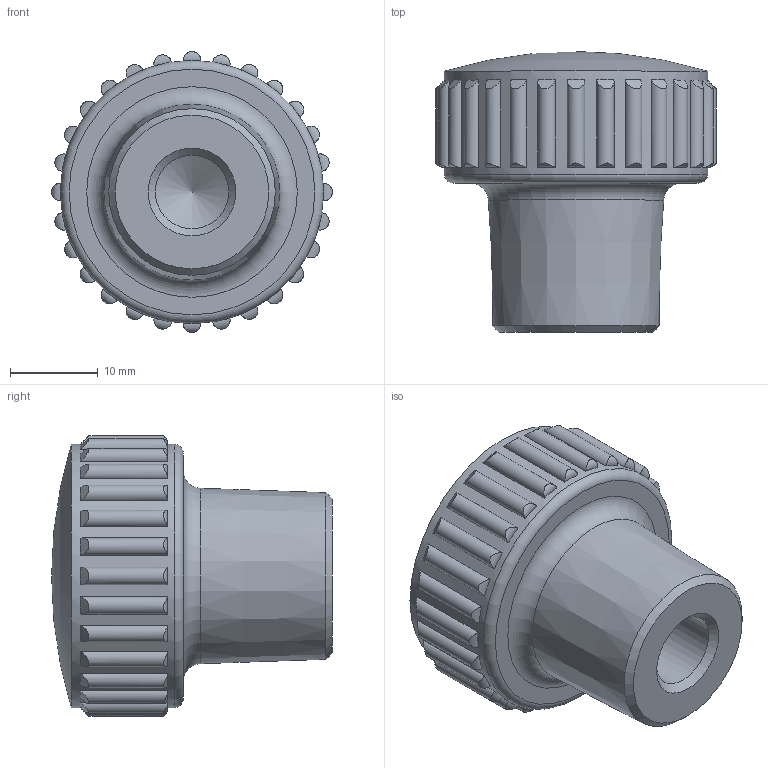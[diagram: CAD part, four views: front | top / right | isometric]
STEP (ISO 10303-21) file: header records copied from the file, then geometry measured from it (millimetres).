
FILE_DESCRIPTION( ( 'STEP AP203' ), '1' );
FILE_NAME( 'C:/Temp/Ganter_Step_05_03_2020/data/2_2/gn_530_1/Knurled nut GN 530.1-32-M10-WS.stp', '2020-03-05T12:34:24', ( 'License CC BY-ND 4.0' ), ( 'CADENAS' ), ' ', 'PARTsolutions', ' ' );
FILE_SCHEMA( ( 'CONFIG_CONTROL_DESIGN' ) );
Length unit declared in the file: millimetre
Products named in the file (1): _Knurled nut GN 530.1-32-M10-WS
Bounding box: 32 x 32 x 32 mm (x, y, z)
Volume: 14176.6 mm3; surface area: 4432.7 mm2
Topology: 1 solids, 1 shells, 95 faces, 193 edges, 127 vertices
Faces by surface type: cone 32, cylinder 30, torus 30, plane 2, sphere 1
Full cylindrical faces by diameter (mm): 8.376 x1, 30 x1
Entity records: 3402 total; most frequent: CARTESIAN_POINT 1462, DIRECTION 380, ORIENTED_EDGE 356, EDGE_CURVE 178, AXIS2_PLACEMENT_3D 162, EDGE_LOOP 132, VERTEX_POINT 124, FACE_OUTER_BOUND 99
